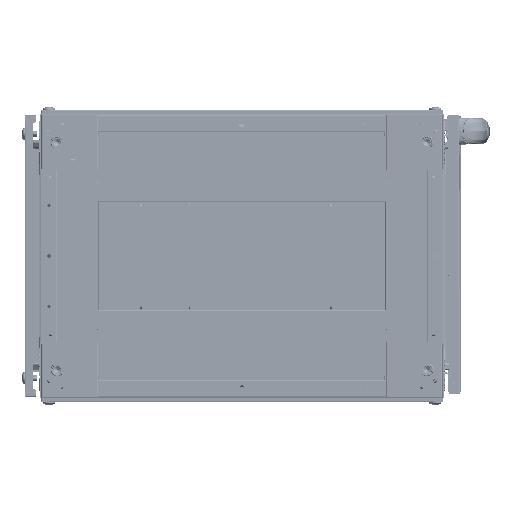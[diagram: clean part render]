
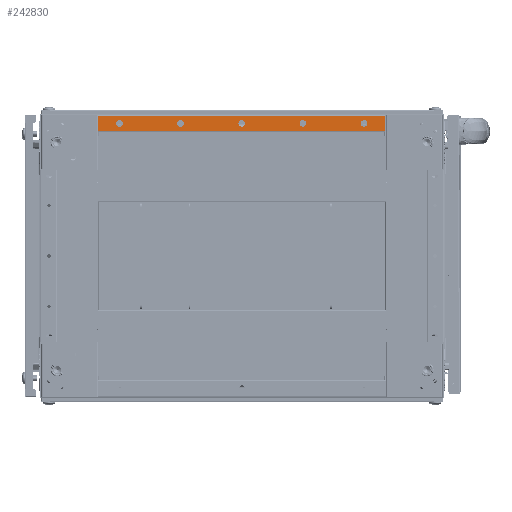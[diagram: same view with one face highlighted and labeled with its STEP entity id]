
A CAD part, front view. The second image highlights one B-rep face of the part: STEP entity #242830.
In plain terms, the highlighted planar face has unit normal (0, -1, 0) as drawn and (0, 0, -1) by its records, which use the part's own axes.
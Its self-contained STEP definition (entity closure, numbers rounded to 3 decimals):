
#1595 = LINE ( 'NONE', #268009, #396176 ) ;
#12208 = CARTESIAN_POINT ( 'NONE',  ( 404., 1.51, -98.01 ) ) ;
#15083 = ORIENTED_EDGE ( 'NONE', *, *, #504927, .F. ) ;
#28581 = CARTESIAN_POINT ( 'NONE',  ( 287.982, 12.01, -98.01 ) ) ;
#31743 = EDGE_CURVE ( 'NONE', #184036, #355911, #1595, .T. ) ;
#35094 = EDGE_CURVE ( 'NONE', #689230, #316346, #307930, .T. ) ;
#40859 = VECTOR ( 'NONE', #486276, 1000. ) ;
#48388 = FACE_BOUND ( 'NONE', #617222, .T. ) ;
#48937 = DIRECTION ( 'NONE',  ( 0., -1., 0. ) ) ;
#63076 = DIRECTION ( 'NONE',  ( 0., -1., 0. ) ) ;
#69574 = AXIS2_PLACEMENT_3D ( 'NONE', #688539, #418483, #48937 ) ;
#88334 = VERTEX_POINT ( 'NONE', #688964 ) ;
#90875 = DIRECTION ( 'NONE',  ( 0., -1., 0. ) ) ;
#106439 = ORIENTED_EDGE ( 'NONE', *, *, #366309, .T. ) ;
#122715 = AXIS2_PLACEMENT_3D ( 'NONE', #330369, #160025, #376693 ) ;
#133223 = CIRCLE ( 'NONE', #348715, 4.65 ) ;
#135159 = DIRECTION ( 'NONE',  ( 0., -1., 0. ) ) ;
#141850 = CARTESIAN_POINT ( 'NONE',  ( 404., 23., -98.01 ) ) ;
#160025 = DIRECTION ( 'NONE',  ( 0., 0., -1. ) ) ;
#166185 = DIRECTION ( 'NONE',  ( 0., 0., -1. ) ) ;
#168782 = VERTEX_POINT ( 'NONE', #188183 ) ;
#171327 = EDGE_LOOP ( 'NONE', ( #367794, #520683 ) ) ;
#178289 = CARTESIAN_POINT ( 'NONE',  ( 373.963, 12.01, -98.01 ) ) ;
#178895 = CARTESIAN_POINT ( 'NONE',  ( 116.018, 12.01, -98.01 ) ) ;
#184036 = VERTEX_POINT ( 'NONE', #363451 ) ;
#185654 = EDGE_LOOP ( 'NONE', ( #427519, #195777 ) ) ;
#188183 = CARTESIAN_POINT ( 'NONE',  ( 120.668, 12.01, -98.01 ) ) ;
#195562 = CARTESIAN_POINT ( 'NONE',  ( 0., 1.51, -98.01 ) ) ;
#195777 = ORIENTED_EDGE ( 'NONE', *, *, #441642, .F. ) ;
#202345 = CIRCLE ( 'NONE', #122715, 4.65 ) ;
#202842 = CARTESIAN_POINT ( 'NONE',  ( 111.368, 12.01, -98.01 ) ) ;
#202960 = DIRECTION ( 'NONE',  ( 0., -1., 0. ) ) ;
#208213 = PLANE ( 'NONE',  #427376 ) ;
#210607 = CIRCLE ( 'NONE', #676202, 4.65 ) ;
#216927 = CARTESIAN_POINT ( 'NONE',  ( 30.037, 7.36, -98.01 ) ) ;
#218225 = DIRECTION ( 'NONE',  ( 1., 0., 0. ) ) ;
#231551 = VERTEX_POINT ( 'NONE', #12208 ) ;
#242424 = VERTEX_POINT ( 'NONE', #216927 ) ;
#242830 = ADVANCED_FACE ( 'NONE', ( #371629, #598816, #314839, #48388, #261533, #485230 ), #208213, .F. ) ;
#258463 = CIRCLE ( 'NONE', #281238, 4.65 ) ;
#261533 = FACE_BOUND ( 'NONE', #171327, .T. ) ;
#262650 = VERTEX_POINT ( 'NONE', #399259 ) ;
#265024 = CARTESIAN_POINT ( 'NONE',  ( 404., 23., -98.01 ) ) ;
#265270 = EDGE_LOOP ( 'NONE', ( #521883, #596198, #586022, #453518 ) ) ;
#268009 = CARTESIAN_POINT ( 'NONE',  ( 404., 23., -98.01 ) ) ;
#272121 = DIRECTION ( 'NONE',  ( 0., 0., 1. ) ) ;
#279739 = CARTESIAN_POINT ( 'NONE',  ( 30.037, 12.01, -98.01 ) ) ;
#281238 = AXIS2_PLACEMENT_3D ( 'NONE', #540850, #594142, #90875 ) ;
#286907 = CIRCLE ( 'NONE', #377686, 4.65 ) ;
#292465 = DIRECTION ( 'NONE',  ( 0., 0., 1. ) ) ;
#294985 = VERTEX_POINT ( 'NONE', #195562 ) ;
#305617 = AXIS2_PLACEMENT_3D ( 'NONE', #178895, #292465, #402559 ) ;
#307930 = CIRCLE ( 'NONE', #69574, 4.65 ) ;
#309511 = EDGE_CURVE ( 'NONE', #168782, #601811, #350703, .T. ) ;
#310219 = VERTEX_POINT ( 'NONE', #671253 ) ;
#314839 = FACE_BOUND ( 'NONE', #185654, .T. ) ;
#316346 = VERTEX_POINT ( 'NONE', #380004 ) ;
#316532 = DIRECTION ( 'NONE',  ( 0., 0., -1. ) ) ;
#330369 = CARTESIAN_POINT ( 'NONE',  ( 373.963, 12.01, -98.01 ) ) ;
#332587 = CIRCLE ( 'NONE', #411726, 4.65 ) ;
#333465 = EDGE_CURVE ( 'NONE', #316346, #689230, #551105, .T. ) ;
#345512 = DIRECTION ( 'NONE',  ( 0., -1., 0. ) ) ;
#348715 = AXIS2_PLACEMENT_3D ( 'NONE', #279739, #166185, #63076 ) ;
#350703 = CIRCLE ( 'NONE', #305617, 4.65 ) ;
#355911 = VERTEX_POINT ( 'NONE', #141850 ) ;
#356050 = ORIENTED_EDGE ( 'NONE', *, *, #616732, .F. ) ;
#361371 = VECTOR ( 'NONE', #429904, 1000. ) ;
#363451 = CARTESIAN_POINT ( 'NONE',  ( 0., 23., -98.01 ) ) ;
#363594 = EDGE_CURVE ( 'NONE', #294985, #231551, #663936, .T. ) ;
#366309 = EDGE_CURVE ( 'NONE', #575114, #262650, #258463, .T. ) ;
#366787 = EDGE_CURVE ( 'NONE', #355911, #231551, #419391, .T. ) ;
#367794 = ORIENTED_EDGE ( 'NONE', *, *, #333465, .T. ) ;
#371629 = FACE_BOUND ( 'NONE', #385552, .T. ) ;
#376693 = DIRECTION ( 'NONE',  ( 0., 1., 0. ) ) ;
#377686 = AXIS2_PLACEMENT_3D ( 'NONE', #28581, #511711, #135159 ) ;
#380004 = CARTESIAN_POINT ( 'NONE',  ( 206.65, 12.01, -98.01 ) ) ;
#385552 = EDGE_LOOP ( 'NONE', ( #612906, #106439 ) ) ;
#391814 = CARTESIAN_POINT ( 'NONE',  ( 202., 12.01, -98.01 ) ) ;
#394979 = DIRECTION ( 'NONE',  ( 0., 0., -1. ) ) ;
#396176 = VECTOR ( 'NONE', #218225, 1000. ) ;
#397282 = ORIENTED_EDGE ( 'NONE', *, *, #432413, .T. ) ;
#399259 = CARTESIAN_POINT ( 'NONE',  ( 292.632, 12.01, -98.01 ) ) ;
#400826 = EDGE_CURVE ( 'NONE', #294985, #184036, #432974, .T. ) ;
#402559 = DIRECTION ( 'NONE',  ( 0., -1., 0. ) ) ;
#405553 = VECTOR ( 'NONE', #617666, 1000. ) ;
#411726 = AXIS2_PLACEMENT_3D ( 'NONE', #605869, #272121, #538617 ) ;
#418483 = DIRECTION ( 'NONE',  ( 0., 0., 1. ) ) ;
#419391 = LINE ( 'NONE', #483196, #361371 ) ;
#427376 = AXIS2_PLACEMENT_3D ( 'NONE', #265024, #481720, #639883 ) ;
#427519 = ORIENTED_EDGE ( 'NONE', *, *, #470396, .F. ) ;
#429904 = DIRECTION ( 'NONE',  ( 0., -1., 0. ) ) ;
#432413 = EDGE_CURVE ( 'NONE', #601811, #168782, #332587, .T. ) ;
#432974 = LINE ( 'NONE', #436472, #40859 ) ;
#434601 = EDGE_CURVE ( 'NONE', #262650, #575114, #286907, .T. ) ;
#436472 = CARTESIAN_POINT ( 'NONE',  ( 0., 23., -98.01 ) ) ;
#441642 = EDGE_CURVE ( 'NONE', #242424, #689882, #133223, .T. ) ;
#453518 = ORIENTED_EDGE ( 'NONE', *, *, #366787, .T. ) ;
#470396 = EDGE_CURVE ( 'NONE', #689882, #242424, #477310, .T. ) ;
#477310 = CIRCLE ( 'NONE', #647217, 4.65 ) ;
#481720 = DIRECTION ( 'NONE',  ( 0., 0., 1. ) ) ;
#483196 = CARTESIAN_POINT ( 'NONE',  ( 404., 23., -98.01 ) ) ;
#485230 = FACE_OUTER_BOUND ( 'NONE', #265270, .T. ) ;
#486276 = DIRECTION ( 'NONE',  ( 0., 1., 0. ) ) ;
#504927 = EDGE_CURVE ( 'NONE', #310219, #88334, #202345, .T. ) ;
#511711 = DIRECTION ( 'NONE',  ( 0., 0., 1. ) ) ;
#520683 = ORIENTED_EDGE ( 'NONE', *, *, #35094, .T. ) ;
#521883 = ORIENTED_EDGE ( 'NONE', *, *, #363594, .F. ) ;
#533991 = EDGE_LOOP ( 'NONE', ( #648510, #397282 ) ) ;
#538617 = DIRECTION ( 'NONE',  ( 0., -1., 0. ) ) ;
#540850 = CARTESIAN_POINT ( 'NONE',  ( 287.982, 12.01, -98.01 ) ) ;
#551105 = CIRCLE ( 'NONE', #641913, 4.65 ) ;
#555218 = DIRECTION ( 'NONE',  ( 0., 0., 1. ) ) ;
#575114 = VERTEX_POINT ( 'NONE', #655586 ) ;
#586022 = ORIENTED_EDGE ( 'NONE', *, *, #31743, .T. ) ;
#594142 = DIRECTION ( 'NONE',  ( 0., 0., 1. ) ) ;
#596198 = ORIENTED_EDGE ( 'NONE', *, *, #400826, .T. ) ;
#598816 = FACE_BOUND ( 'NONE', #533991, .T. ) ;
#601811 = VERTEX_POINT ( 'NONE', #202842 ) ;
#605869 = CARTESIAN_POINT ( 'NONE',  ( 116.018, 12.01, -98.01 ) ) ;
#610639 = CARTESIAN_POINT ( 'NONE',  ( 404., 1.51, -98.01 ) ) ;
#611073 = CARTESIAN_POINT ( 'NONE',  ( 197.35, 12.01, -98.01 ) ) ;
#611678 = DIRECTION ( 'NONE',  ( 0., 1., 0. ) ) ;
#612906 = ORIENTED_EDGE ( 'NONE', *, *, #434601, .T. ) ;
#616732 = EDGE_CURVE ( 'NONE', #88334, #310219, #210607, .T. ) ;
#617222 = EDGE_LOOP ( 'NONE', ( #356050, #15083 ) ) ;
#617666 = DIRECTION ( 'NONE',  ( 1., 0., 0. ) ) ;
#639883 = DIRECTION ( 'NONE',  ( 0., -1., 0. ) ) ;
#641913 = AXIS2_PLACEMENT_3D ( 'NONE', #391814, #555218, #345512 ) ;
#643354 = CARTESIAN_POINT ( 'NONE',  ( 30.037, 12.01, -98.01 ) ) ;
#647217 = AXIS2_PLACEMENT_3D ( 'NONE', #643354, #316532, #202960 ) ;
#648510 = ORIENTED_EDGE ( 'NONE', *, *, #309511, .T. ) ;
#655586 = CARTESIAN_POINT ( 'NONE',  ( 283.332, 12.01, -98.01 ) ) ;
#663936 = LINE ( 'NONE', #610639, #405553 ) ;
#664766 = CARTESIAN_POINT ( 'NONE',  ( 30.037, 16.66, -98.01 ) ) ;
#671253 = CARTESIAN_POINT ( 'NONE',  ( 373.963, 7.36, -98.01 ) ) ;
#676202 = AXIS2_PLACEMENT_3D ( 'NONE', #178289, #394979, #611678 ) ;
#688539 = CARTESIAN_POINT ( 'NONE',  ( 202., 12.01, -98.01 ) ) ;
#688964 = CARTESIAN_POINT ( 'NONE',  ( 373.963, 16.66, -98.01 ) ) ;
#689230 = VERTEX_POINT ( 'NONE', #611073 ) ;
#689882 = VERTEX_POINT ( 'NONE', #664766 ) ;
